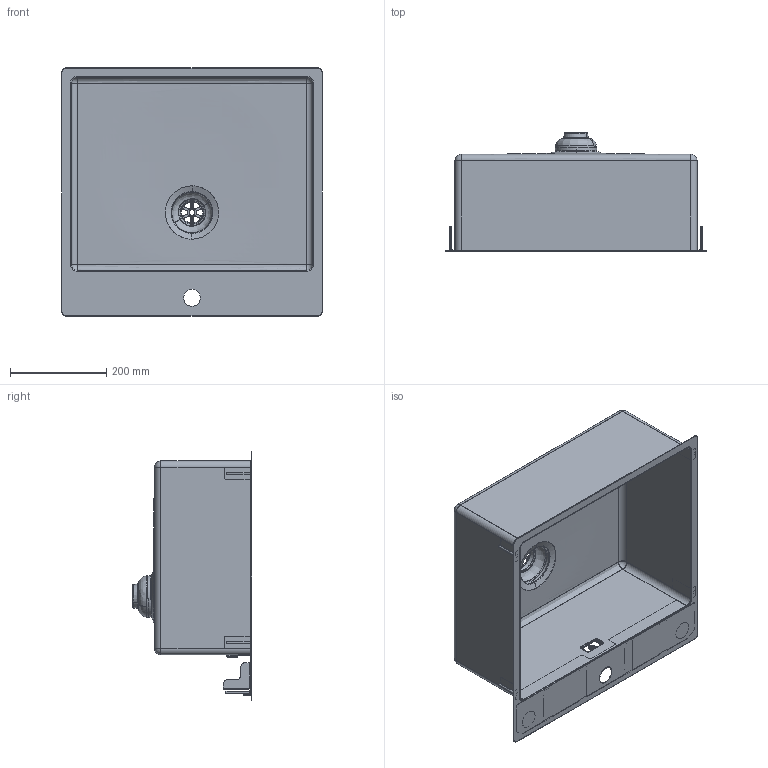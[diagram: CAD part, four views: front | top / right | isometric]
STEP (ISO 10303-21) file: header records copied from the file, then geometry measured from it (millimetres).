
FILE_DESCRIPTION (( 'STEP AP203' ), '1' );
FILE_NAME ('AA5021I - ALVEUS.STEP', '2024-01-29T14:42:35', ( '' ), ( '' ), 'SwSTEP 2.0', 'SolidWorks 2021', '' );
FILE_SCHEMA (( 'CONFIG_CONTROL_DESIGN' ));
Length unit declared in the file: millimetre
Products named in the file (1): AA5021I - ALVEUS
Bounding box: 540 x 246.92 x 515 mm (x, y, z)
Volume: 715847.1 mm3; surface area: 1434551.4 mm2
Topology: 14 solids, 14 shells, 764 faces, 1949 edges, 1197 vertices
Faces by surface type: cylinder 277, plane 246, bspline 185, torus 32, cone 12, sphere 12
Entity records: 38659 total; most frequent: CARTESIAN_POINT 21549, ORIENTED_EDGE 3866, DIRECTION 3055, EDGE_CURVE 1933, VERTEX_POINT 1197, AXIS2_PLACEMENT_3D 1136, EDGE_LOOP 800, LINE 783
